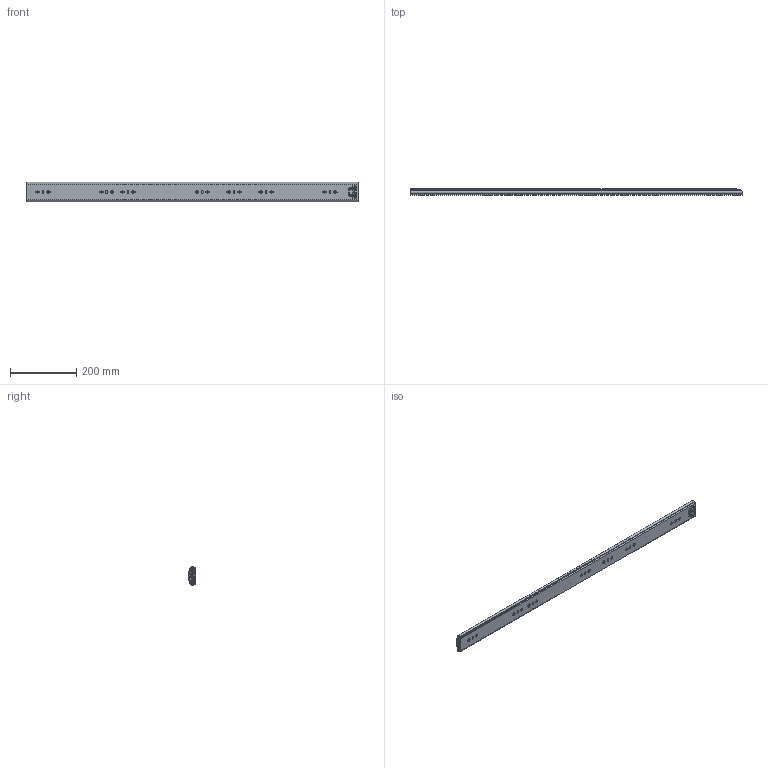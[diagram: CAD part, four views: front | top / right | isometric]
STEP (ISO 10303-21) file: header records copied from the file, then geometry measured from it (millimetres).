
FILE_DESCRIPTION((''),'2;1');
FILE_NAME('1057-02-40_ASM','2023-12-23T',('jishu015'),(''),'PRO/ENGINEER BY PARAMETRIC TECHNOLOGY CORPORATION, 2010280','PRO/ENGINEER BY PARAMETRIC TECHNOLOGY CORPORATION, 2010280','');
FILE_SCHEMA(('CONFIG_CONTROL_DESIGN'));
Products named in the file (14): KP-57-01WEIKE-18____________; 1057WEIJIAO____________; 1057DAZHUJIA-14GE____________; 1057-5-6GANZHU____________; 1057DAZHUJIA-14GE_____________ASM; KP-57-01ZHONGGUI-18____________; 57-ZHONGGUIDINWEIJIAN11_; KP-57-01ZHONGGUI-18_____________ASM; 1057XIAOZHUJIA____________; 1057XIAOZHUJIA-14GE_____________ASM; KP-57-01NEIGUI-18____________; 45TIEBACHA____________; KP-57-01NEIGUI-18_____________ASM; 1057-02-40_ASM
Assembly tree (160 placements, depth 3):
  1057-02-40_ASM
    KP-57-01WEIKE-18____________
    1057WEIJIAO____________
    1057DAZHUJIA-14GE_____________ASM
      1057DAZHUJIA-14GE____________
      1057-5-6GANZHU____________  x72
    KP-57-01ZHONGGUI-18_____________ASM
      KP-57-01ZHONGGUI-18____________
      57-ZHONGGUIDINWEIJIAN11_
    1057XIAOZHUJIA-14GE_____________ASM
      1057XIAOZHUJIA____________
      1057-5-6GANZHU____________  x76
    KP-57-01NEIGUI-18_____________ASM
      KP-57-01NEIGUI-18____________
      45TIEBACHA____________
Bounding box: 1000 x 19 x 57.67 mm (x, y, z)
Volume: 436504.5 mm3; surface area: 512618.9 mm2
Topology: 156 solids, 158 shells, 3983 faces, 11198 edges, 6928 vertices
Faces by surface type: plane 1837, cylinder 1642, sphere 304, cone 114, bspline 80, torus 6
Entity records: 124477 total; most frequent: CARTESIAN_POINT 25293, DIRECTION 21072, ORIENTED_EDGE 20604, EDGE_CURVE 10304, AXIS2_PLACEMENT_3D 7227, VERTEX_POINT 6634, VECTOR 6618, LINE 6618
